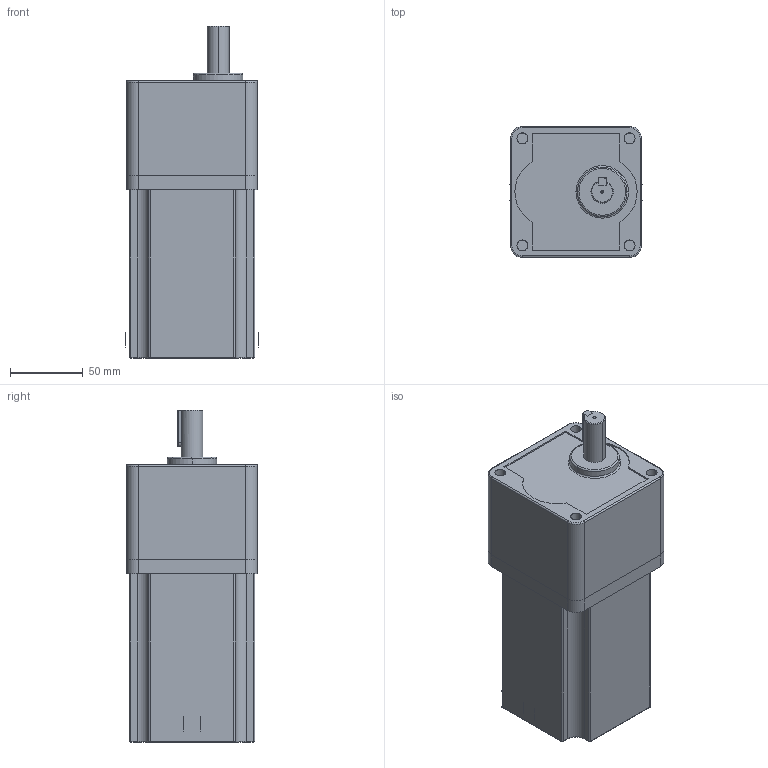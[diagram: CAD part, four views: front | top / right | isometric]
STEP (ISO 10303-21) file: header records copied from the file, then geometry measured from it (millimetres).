
FILE_DESCRIPTION (( 'STEP AP203' ), '1' );
FILE_NAME ('TM3403GU60A+5GU（L15）.STEP', '2026-07-20T03:24:34', ( 'user' ), ( '微软中国' ), 'SwSTEP 2.0', 'SolidWorks 2014', '' );
FILE_SCHEMA (( 'CONFIG_CONTROL_DESIGN' ));
Length unit declared in the file: millimetre
Products named in the file (1): TM3403GU60A+5GU（L15）
Bounding box: 91 x 90 x 228 mm (x, y, z)
Surface area: 114662.2 mm2 (no closed solid volume)
Topology: 0 solids, 11 shells, 131 faces, 357 edges, 240 vertices
Faces by surface type: cylinder 63, plane 42, torus 21, cone 5
Entity records: 4621 total; most frequent: CARTESIAN_POINT 1166, DIRECTION 764, ORIENTED_EDGE 637, EDGE_CURVE 357, AXIS2_PLACEMENT_3D 292, VERTEX_POINT 240, LINE 180, VECTOR 180
